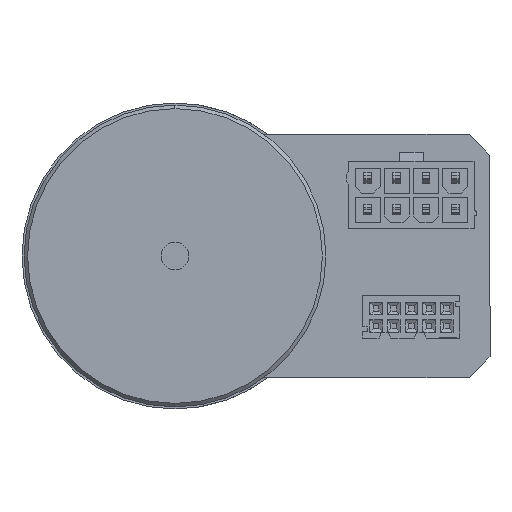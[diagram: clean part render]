
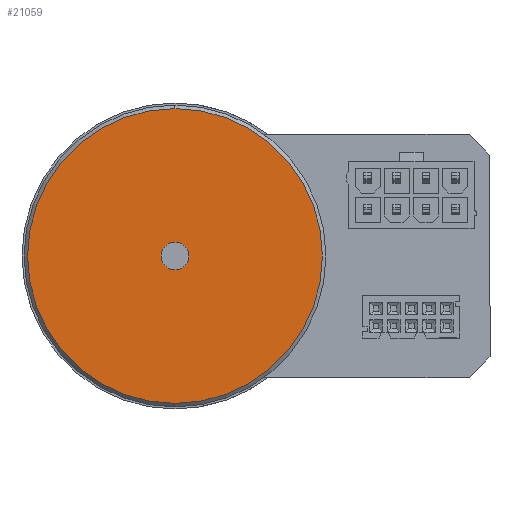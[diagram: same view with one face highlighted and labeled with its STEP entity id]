
A CAD part, left-side view. The second image highlights one B-rep face of the part: STEP entity #21059.
In plain terms, the highlighted planar face has unit normal (-1, 0, 0) as drawn and (1, 0, 0) by its records, which use the part's own axes.
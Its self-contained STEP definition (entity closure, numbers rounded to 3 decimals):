
#2020 = DIRECTION ( 'NONE',  ( -1., 0., 0. ) ) ;
#3350 = ORIENTED_EDGE ( 'NONE', *, *, #34451, .T. ) ;
#3500 = AXIS2_PLACEMENT_3D ( 'NONE', #37949, #16988, #26018 ) ;
#6896 = VERTEX_POINT ( 'NONE', #15407 ) ;
#6957 = CIRCLE ( 'NONE', #16183, 21.2 ) ;
#7754 = DIRECTION ( 'NONE',  ( 1., 0., 0. ) ) ;
#11706 = CARTESIAN_POINT ( 'NONE',  ( 28.4, 0., 0. ) ) ;
#11945 = VERTEX_POINT ( 'NONE', #18711 ) ;
#12191 = CARTESIAN_POINT ( 'NONE',  ( 28.4, 0., 0. ) ) ;
#12234 = EDGE_CURVE ( 'NONE', #6896, #30031, #24516, .T. ) ;
#12447 = EDGE_CURVE ( 'NONE', #22737, #11945, #23105, .T. ) ;
#14680 = FACE_OUTER_BOUND ( 'NONE', #29526, .T. ) ;
#14745 = DIRECTION ( 'NONE',  ( 0., 0., 1. ) ) ;
#15225 = DIRECTION ( 'NONE',  ( 0., 0., 1. ) ) ;
#15407 = CARTESIAN_POINT ( 'NONE',  ( 28.4, 0., 2. ) ) ;
#16183 = AXIS2_PLACEMENT_3D ( 'NONE', #25831, #7754, #28818 ) ;
#16988 = DIRECTION ( 'NONE',  ( -1., 0., 0. ) ) ;
#18711 = CARTESIAN_POINT ( 'NONE',  ( 28.4, 0., -21.2 ) ) ;
#20124 = CARTESIAN_POINT ( 'NONE',  ( 28.4, 0., 0. ) ) ;
#20801 = FACE_BOUND ( 'NONE', #31862, .T. ) ;
#21059 = ADVANCED_FACE ( 'NONE', ( #14680, #20801 ), #23028, .F. ) ;
#21792 = ORIENTED_EDGE ( 'NONE', *, *, #12447, .T. ) ;
#22737 = VERTEX_POINT ( 'NONE', #27520 ) ;
#23028 = PLANE ( 'NONE',  #3500 ) ;
#23105 = CIRCLE ( 'NONE', #30307, 21.2 ) ;
#23145 = DIRECTION ( 'NONE',  ( 0., 0., 1. ) ) ;
#24387 = CIRCLE ( 'NONE', #36283, 2. ) ;
#24516 = CIRCLE ( 'NONE', #33075, 2. ) ;
#25831 = CARTESIAN_POINT ( 'NONE',  ( 28.4, 0., 0. ) ) ;
#26018 = DIRECTION ( 'NONE',  ( 0., 0., 1. ) ) ;
#27520 = CARTESIAN_POINT ( 'NONE',  ( 28.4, 0., 21.2 ) ) ;
#28818 = DIRECTION ( 'NONE',  ( 0., 0., 1. ) ) ;
#29526 = EDGE_LOOP ( 'NONE', ( #21792, #3350 ) ) ;
#30031 = VERTEX_POINT ( 'NONE', #39052 ) ;
#30166 = ORIENTED_EDGE ( 'NONE', *, *, #34659, .T. ) ;
#30307 = AXIS2_PLACEMENT_3D ( 'NONE', #12191, #33226, #15225 ) ;
#31862 = EDGE_LOOP ( 'NONE', ( #35893, #30166 ) ) ;
#32726 = DIRECTION ( 'NONE',  ( -1., 0., 0. ) ) ;
#33075 = AXIS2_PLACEMENT_3D ( 'NONE', #20124, #2020, #23145 ) ;
#33226 = DIRECTION ( 'NONE',  ( 1., 0., 0. ) ) ;
#34451 = EDGE_CURVE ( 'NONE', #11945, #22737, #6957, .T. ) ;
#34659 = EDGE_CURVE ( 'NONE', #30031, #6896, #24387, .T. ) ;
#35893 = ORIENTED_EDGE ( 'NONE', *, *, #12234, .T. ) ;
#36283 = AXIS2_PLACEMENT_3D ( 'NONE', #11706, #32726, #14745 ) ;
#37949 = CARTESIAN_POINT ( 'NONE',  ( 28.4, 21.7, 0. ) ) ;
#39052 = CARTESIAN_POINT ( 'NONE',  ( 28.4, 0., -2. ) ) ;
